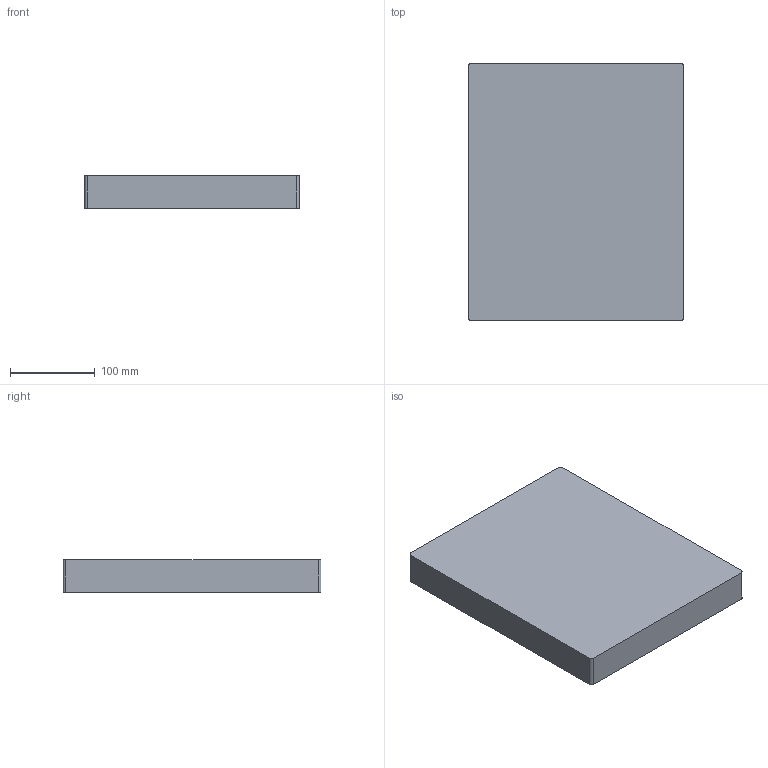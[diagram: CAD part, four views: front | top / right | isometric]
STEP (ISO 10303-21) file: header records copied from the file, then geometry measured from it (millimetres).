
FILE_DESCRIPTION(/* description */ (''),/* implementation_level */ '2;1');
FILE_NAME(/* name */ 'C:/Users/XPS Desktop/Dropbox/Distributable/PPS/PPS 10x12 Pallet.step',/* time_stamp */ '2022-09-09T09:28:43-07:00',/* author */ (''),/* organization */ (''),/* preprocessor_version */ 'ST-DEVELOPER v19',/* originating_system */ 'Autodesk Translation Framework v11.7.0.108',/* authorisation */ '');
FILE_SCHEMA (('AUTOMOTIVE_DESIGN { 1 0 10303 214 3 1 1 }'));
Length unit declared in the file: inch
Products named in the file (1): (Unsaved)
Bounding box: 254 x 304.8 x 38.1 mm (x, y, z)
Volume: 2890082.9 mm3; surface area: 203717.2 mm2
Topology: 1 solids, 1 shells, 42 faces, 90 edges, 60 vertices
Faces by surface type: plane 24, cylinder 18
Full cylindrical faces by diameter (mm): 22.258 x2, 30.48 x2, 49.212 x2
Entity records: 1192 total; most frequent: DIRECTION 212, CARTESIAN_POINT 193, ORIENTED_EDGE 180, EDGE_CURVE 90, AXIS2_PLACEMENT_3D 79, VERTEX_POINT 60, LINE 54, VECTOR 54
